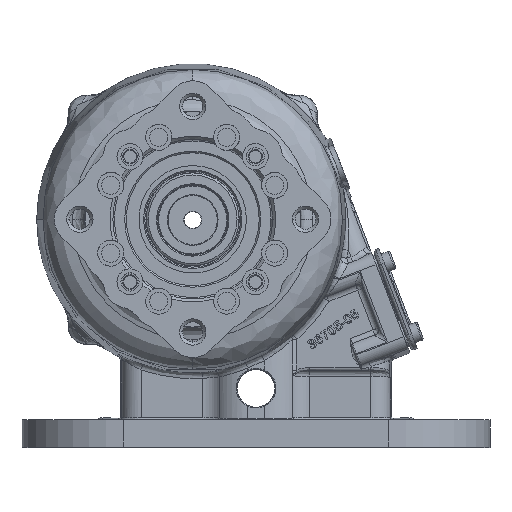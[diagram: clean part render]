
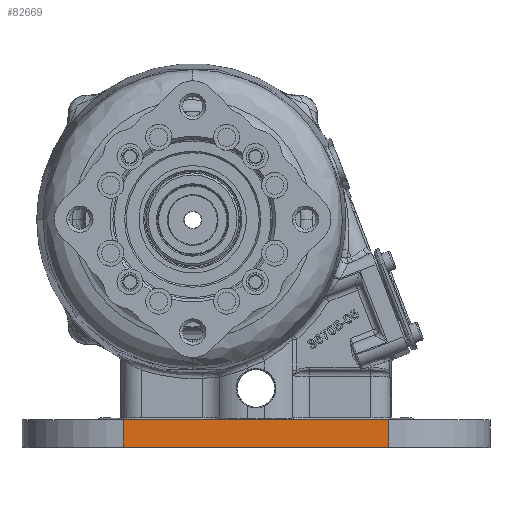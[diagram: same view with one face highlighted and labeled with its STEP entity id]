
A CAD part, top view. The second image highlights one B-rep face of the part: STEP entity #82669.
In plain terms, the highlighted planar face has unit normal (0, 0, 1).
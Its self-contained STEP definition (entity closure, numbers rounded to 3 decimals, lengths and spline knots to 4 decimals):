
#337 = CARTESIAN_POINT ( 'NONE',  ( -2.62, -0.625, 3.5 ) ) ;
#685 = EDGE_CURVE ( 'NONE', #125959, #67872, #156525, .T. ) ;
#3107 = DIRECTION ( 'NONE',  ( 0., 1., 0. ) ) ;
#11995 = VERTEX_POINT ( 'NONE', #151108 ) ;
#19709 = VECTOR ( 'NONE', #65791, 39.3701 ) ;
#20931 = ORIENTED_EDGE ( 'NONE', *, *, #62353, .T. ) ;
#21400 = FACE_OUTER_BOUND ( 'NONE', #56555, .T. ) ;
#26698 = CARTESIAN_POINT ( 'NONE',  ( -2.62, -0.625, 3.5 ) ) ;
#37506 = ORIENTED_EDGE ( 'NONE', *, *, #148253, .F. ) ;
#40979 = ORIENTED_EDGE ( 'NONE', *, *, #685, .T. ) ;
#48713 = VECTOR ( 'NONE', #64747, 39.3701 ) ;
#49612 = CARTESIAN_POINT ( 'NONE',  ( 2.62, -1.165, 3.5 ) ) ;
#56263 = CARTESIAN_POINT ( 'NONE',  ( 0., -1.165, 3.5 ) ) ;
#56555 = EDGE_LOOP ( 'NONE', ( #40979, #144447, #37506, #20931 ) ) ;
#60493 = CARTESIAN_POINT ( 'NONE',  ( -2.62, -0.895, 3.5 ) ) ;
#61190 = AXIS2_PLACEMENT_3D ( 'NONE', #60493, #133820, #111231 ) ;
#62353 = EDGE_CURVE ( 'NONE', #66134, #125959, #107916, .T. ) ;
#64747 = DIRECTION ( 'NONE',  ( 0., 1., 0. ) ) ;
#65574 = LINE ( 'NONE', #116317, #48713 ) ;
#65791 = DIRECTION ( 'NONE',  ( -1., 0., 0. ) ) ;
#66134 = VERTEX_POINT ( 'NONE', #49612 ) ;
#66363 = CARTESIAN_POINT ( 'NONE',  ( 2.62, -0.895, 3.5 ) ) ;
#67872 = VERTEX_POINT ( 'NONE', #337 ) ;
#82669 = ADVANCED_FACE ( 'NONE', ( #21400 ), #146317, .T. ) ;
#86597 = VECTOR ( 'NONE', #106999, 39.3701 ) ;
#88931 = CARTESIAN_POINT ( 'NONE',  ( 2.62, -0.625, 3.5 ) ) ;
#97134 = EDGE_CURVE ( 'NONE', #11995, #67872, #65574, .T. ) ;
#106999 = DIRECTION ( 'NONE',  ( -1., 0., 0. ) ) ;
#107916 = LINE ( 'NONE', #66363, #131084 ) ;
#111231 = DIRECTION ( 'NONE',  ( 0., -1., 0. ) ) ;
#116317 = CARTESIAN_POINT ( 'NONE',  ( -2.62, -0.895, 3.5 ) ) ;
#119480 = LINE ( 'NONE', #56263, #86597 ) ;
#125959 = VERTEX_POINT ( 'NONE', #88931 ) ;
#131084 = VECTOR ( 'NONE', #3107, 39.3701 ) ;
#133820 = DIRECTION ( 'NONE',  ( 0., 0., 1. ) ) ;
#144447 = ORIENTED_EDGE ( 'NONE', *, *, #97134, .F. ) ;
#146317 = PLANE ( 'NONE',  #61190 ) ;
#148253 = EDGE_CURVE ( 'NONE', #66134, #11995, #119480, .T. ) ;
#151108 = CARTESIAN_POINT ( 'NONE',  ( -2.62, -1.165, 3.5 ) ) ;
#156525 = LINE ( 'NONE', #26698, #19709 ) ;
